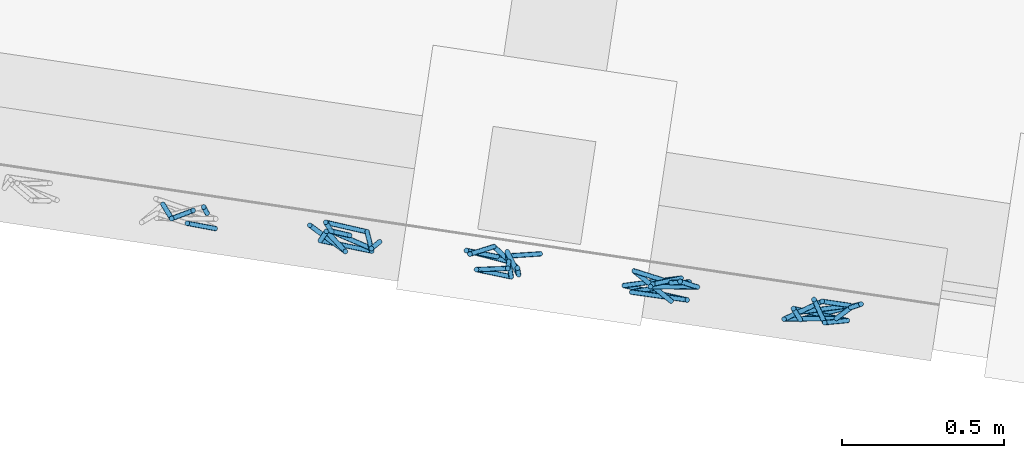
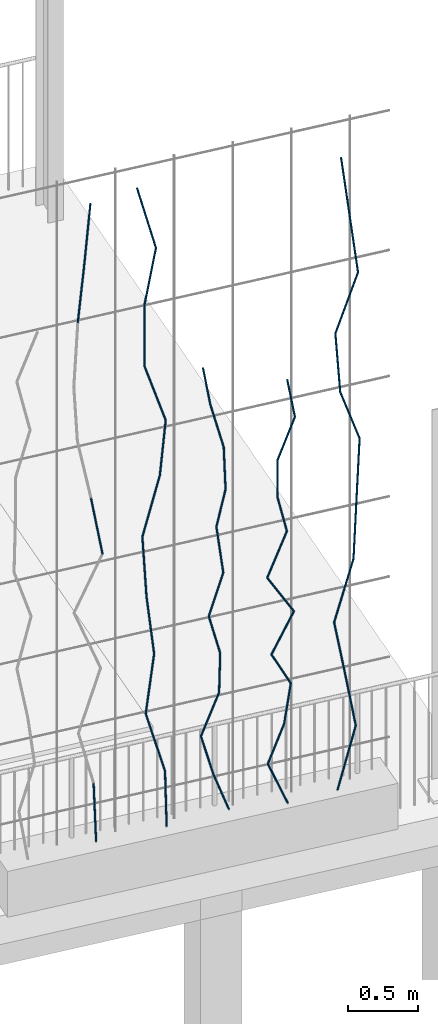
# One storey, part 127 of 143: 48 members, 1 element without a shape of its own.
"""IFC4 building model written with IfcOpenShell, lengths in metres."""

from ifc_helpers import new_model, si_unit, direction, frame, origin_with_axes, place, context, subcontext, project, spatial, circle, extrude, material, material_profile, profile_set, profile_usage, type_object, element, aggregate, save


model = new_model("IFC4")

# Units and contexts
model_context = context("Model", 3, precision=1e-05, world=origin_with_axes(), true_north=direction((0.0, 1.0)))
body_context = subcontext(model_context, "Body", "Model", "MODEL_VIEW")
ifc_project = project(units=[si_unit("VOLUMEUNIT", "CUBIC_METRE"), si_unit("LENGTHUNIT", "METRE"), si_unit("AREAUNIT", "SQUARE_METRE")], contexts=[model_context])

# Site, building, storey
site_placement = place(None, origin_with_axes())
site = spatial("IfcSite", under=ifc_project, at=site_placement, Name="Lares · Rua das Mercês · artigo 4771")
building_placement = place(site_placement, frame((15.0, 9.7, 15.8), z_axis=(0.0, 0.0, 1.0), x_axis=(0.989015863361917, -0.147809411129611, 0.0)))
building = spatial("IfcBuilding", under=site, at=building_placement, Name="Casa Sobreposta")
storey_placement = place(building_placement, origin_with_axes())
storey = spatial("IfcBuildingStorey", under=building, at=storey_placement, Name="00 · Habitação e estacionamento", Elevation=15.8)

# Assembly, members
assembly_placement = place(storey_placement, origin_with_axes())
assembly = element("IfcElementAssembly", 1, at=assembly_placement, inside=storey, Name="Fachada sul e pátio · estrutura e trepadeiras", ObjectType="LIVING_SHADE_TRELLIS", PredefinedType="USERDEFINED")
ifc_material = material(Name="Ramos de trepadeiras", Category="wood")
ifc_material_profile = material_profile(ifc_material, circle(Radius=0.0075))
ifc_profile_set = profile_set([ifc_material_profile], Name="D0.015")
ifc_profile_usage_1 = profile_usage(ifc_profile_set)
member_type = type_object("IfcMemberType", Name="D0.015 / vine_wood", PredefinedType="NOTDEFINED", material=ifc_profile_set)
member_1_placement = place(assembly_placement, frame((29.2283838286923, -1.66457891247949, 0.35), z_axis=(-0.0252439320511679, 0.0344689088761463, 0.999086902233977), x_axis=(0.999681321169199, 0.000870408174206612, 0.0252289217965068)))
member_1 = element("IfcMember", 2, at=member_1_placement, type_object=member_type, material=ifc_profile_usage_1, Name="Trepadeiras · ramo", context=body_context, shape_type="SweptSolid", body=[
    extrude(circle(Radius=0.0075), origin_with_axes(), (0.0, 0.0, 1.0), 0.508202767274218),
])
ifc_profile_usage_2 = profile_usage(ifc_profile_set)
member_2_placement = place(assembly_placement, frame((29.2600635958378, -1.70751102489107, 2.88869364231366), z_axis=(-0.169784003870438, 0.00616562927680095, 0.985462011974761), x_axis=(0.0362906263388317, 0.999341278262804, 0.0)))
member_2 = element("IfcMember", 3, at=member_2_placement, type_object=member_type, material=ifc_profile_usage_2, Name="Trepadeiras · ramo", context=body_context, shape_type="SweptSolid", body=[
    extrude(circle(Radius=0.0075), origin_with_axes(), (0.0, 0.0, 1.0), 0.515229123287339),
])
ifc_profile_usage_3 = profile_usage(ifc_profile_set)
member_3_placement = place(assembly_placement, frame((29.0901985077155, -1.6576110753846, 4.91964855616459), z_axis=(0.0644049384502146, -0.0771905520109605, 0.994933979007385), x_axis=(-0.767832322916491, -0.640650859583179, 0.0)))
member_3 = element("IfcMember", 4, at=member_3_placement, type_object=member_type, material=ifc_profile_usage_3, Name="Trepadeiras · ramo", context=body_context, shape_type="SweptSolid", body=[
    extrude(circle(Radius=0.0075), origin_with_axes(), (0.0, 0.0, 1.0), 0.510324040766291),
])
ifc_profile_usage_4 = profile_usage(ifc_profile_set)
member_4_placement = place(assembly_placement, frame((29.1230658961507, -1.69700326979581, 5.42738728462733), z_axis=(0.120473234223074, 0.0669973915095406, 0.990453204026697), x_axis=(0.486018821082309, -0.873948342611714, 0.0)))
member_4 = element("IfcMember", 5, at=member_4_placement, type_object=member_type, material=ifc_profile_usage_4, Name="Trepadeiras · ramo", context=body_context, shape_type="SweptSolid", body=[
    extrude(circle(Radius=0.0075), origin_with_axes(), (0.0, 0.0, 1.0), 0.512632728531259),
])
ifc_profile_usage_5 = profile_usage(ifc_profile_set)
member_5_placement = place(assembly_placement, frame((29.7668433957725, -1.67324367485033, 0.35), z_axis=(-0.0428066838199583, -0.0470108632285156, 0.997976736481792), x_axis=(-0.739395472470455, 0.673271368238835, 0.0)))
member_5 = element("IfcMember", 6, at=member_5_placement, type_object=member_type, material=ifc_profile_usage_5, Name="Trepadeiras · ramo", context=body_context, shape_type="SweptSolid", body=[
    extrude(circle(Radius=0.0075), origin_with_axes(), (0.0, 0.0, 1.0), 0.512141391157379),
])
ifc_profile_usage_6 = profile_usage(ifc_profile_set)
member_6_placement = place(assembly_placement, frame((29.7449203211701, -1.69731988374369, 0.861105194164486), z_axis=(-0.254221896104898, 0.0667168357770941, 0.96484200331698), x_axis=(0.253839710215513, 0.967246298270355, 0.0)))
member_6 = element("IfcMember", 7, at=member_6_placement, type_object=member_type, material=ifc_profile_usage_6, Name="Trepadeiras · ramo", context=body_context, shape_type="SweptSolid", body=[
    extrude(circle(Radius=0.0075), origin_with_axes(), (0.0, 0.0, 1.0), 0.529729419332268),
])
ifc_profile_usage_7 = profile_usage(ifc_profile_set)
member_7_placement = place(assembly_placement, frame((29.6102515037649, -1.66197801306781, 1.37221038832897), z_axis=(0.121962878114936, -0.00970701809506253, 0.992487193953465), x_axis=(-0.0793390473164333, -0.996847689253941, 0.0)))
member_7 = element("IfcMember", 8, at=member_7_placement, type_object=member_type, material=ifc_profile_usage_7, Name="Trepadeiras · ramo", context=body_context, shape_type="SweptSolid", body=[
    extrude(circle(Radius=0.0075), origin_with_axes(), (0.0, 0.0, 1.0), 0.514974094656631),
])
ifc_profile_usage_8 = profile_usage(ifc_profile_set)
member_8_placement = place(assembly_placement, frame((29.6730592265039, -1.66697687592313, 1.88331558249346), z_axis=(-0.11114571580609, 0.0078114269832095, 0.99377342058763), x_axis=(0.0701080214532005, 0.997539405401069, 9.67018947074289e-19)))
member_8 = element("IfcMember", 9, at=member_8_placement, type_object=member_type, material=ifc_profile_usage_8, Name="Trepadeiras · ramo", context=body_context, shape_type="SweptSolid", body=[
    extrude(circle(Radius=0.0075), origin_with_axes(), (0.0, 0.0, 1.0), 0.514307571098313),
])
ifc_profile_usage_9 = profile_usage(ifc_profile_set)
member_9_placement = place(assembly_placement, frame((29.6158961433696, -1.66295939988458, 2.39442077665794), z_axis=(-0.0428014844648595, 0.0480979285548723, 0.99792515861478), x_axis=(0.747040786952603, 0.664778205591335, 0.0)))
member_9 = element("IfcMember", 10, at=member_9_placement, type_object=member_type, material=ifc_profile_usage_9, Name="Trepadeiras · ramo", context=body_context, shape_type="SweptSolid", body=[
    extrude(circle(Radius=0.0075), origin_with_axes(), (0.0, 0.0, 1.0), 0.512167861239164),
])
ifc_profile_usage_10 = profile_usage(ifc_profile_set)
member_10_placement = place(assembly_placement, frame((29.5939745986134, -1.6383251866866, 2.90552597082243), z_axis=(0.247264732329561, -0.01922655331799, 0.968757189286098), x_axis=(-0.0775229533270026, -0.996990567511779, 0.0)))
member_10 = element("IfcMember", 11, at=member_10_placement, type_object=member_type, material=ifc_profile_usage_10, Name="Trepadeiras · ramo", context=body_context, shape_type="SweptSolid", body=[
    extrude(circle(Radius=0.0075), origin_with_axes(), (0.0, 0.0, 1.0), 0.52758854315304),
])
ifc_profile_usage_11 = profile_usage(ifc_profile_set)
member_11_placement = place(assembly_placement, frame((29.7244286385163, -1.64846889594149, 3.41663116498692), z_axis=(0.0440949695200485, -0.109390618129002, 0.993020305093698), x_axis=(-0.927483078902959, -0.373865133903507, 0.0)))
member_11 = element("IfcMember", 12, at=member_11_placement, type_object=member_type, material=ifc_profile_usage_11, Name="Trepadeiras · ramo", context=body_context, shape_type="SweptSolid", body=[
    extrude(circle(Radius=0.0075), origin_with_axes(), (0.0, 0.0, 1.0), 0.514697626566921),
])
ifc_profile_usage_12 = profile_usage(ifc_profile_set)
member_12_placement = place(assembly_placement, frame((29.7471242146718, -1.70477198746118, 3.9277363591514), z_axis=(-0.300432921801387, 0.0157623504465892, 0.953672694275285), x_axis=(0.0523933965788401, 0.998626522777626, 0.0)))
member_12 = element("IfcMember", 13, at=member_12_placement, type_object=member_type, material=ifc_profile_usage_12, Name="Trepadeiras · ramo", context=body_context, shape_type="SweptSolid", body=[
    extrude(circle(Radius=0.0075), origin_with_axes(), (0.0, 0.0, 1.0), 0.535933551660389),
])
ifc_profile_usage_13 = profile_usage(ifc_profile_set)
member_13_placement = place(assembly_placement, frame((29.5861121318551, -1.69632441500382, 4.43884155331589), z_axis=(0.0273818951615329, 0.0604129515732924, 0.997797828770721), x_axis=(0.910811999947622, -0.412821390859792, 0.0)))
member_13 = element("IfcMember", 14, at=member_13_placement, type_object=member_type, material=ifc_profile_usage_13, Name="Trepadeiras · ramo", context=body_context, shape_type="SweptSolid", body=[
    extrude(circle(Radius=0.0075), origin_with_axes(), (0.0, 0.0, 1.0), 0.51223321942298),
])
ifc_profile_usage_14 = profile_usage(ifc_profile_set)
member_14_placement = place(assembly_placement, frame((29.6001380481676, -1.66537889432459, 4.94994674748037), z_axis=(0.129038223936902, -0.101811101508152, 0.986399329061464), x_axis=(-0.619414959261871, -0.785063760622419, 0.0)))
member_14 = element("IfcMember", 15, at=member_14_placement, type_object=member_type, material=ifc_profile_usage_14, Name="Trepadeiras · ramo", context=body_context, shape_type="SweptSolid", body=[
    extrude(circle(Radius=0.0075), origin_with_axes(), (0.0, 0.0, 1.0), 0.518152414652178),
])
ifc_profile_usage_15 = profile_usage(ifc_profile_set)
member_15_placement = place(assembly_placement, frame((29.6669995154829, -1.71813256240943, 5.46105194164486), z_axis=(-0.227719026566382, 0.120705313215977, 0.966216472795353), x_axis=(0.468336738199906, 0.883550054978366, 0.0)))
member_15 = element("IfcMember", 16, at=member_15_placement, type_object=member_type, material=ifc_profile_usage_15, Name="Trepadeiras · ramo", context=body_context, shape_type="SweptSolid", body=[
    extrude(circle(Radius=0.0075), origin_with_axes(), (0.0, 0.0, 1.0), 0.528975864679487),
])
ifc_profile_usage_16 = profile_usage(ifc_profile_set)
member_16_placement = place(assembly_placement, frame((30.261618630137, -1.63679709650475, 0.35), z_axis=(-0.341987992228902, -0.073852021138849, 0.936797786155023), x_axis=(-0.211083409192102, 0.977468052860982, 0.0)))
member_16 = element("IfcMember", 17, at=member_16_placement, type_object=member_type, material=ifc_profile_usage_16, Name="Trepadeiras · ramo", context=body_context, shape_type="SweptSolid", body=[
    extrude(circle(Radius=0.0075), origin_with_axes(), (0.0, 0.0, 1.0), 0.381675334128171),
])
ifc_profile_usage_17 = profile_usage(ifc_profile_set)
member_17_placement = place(assembly_placement, frame((30.1310902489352, -1.66498459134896, 0.707552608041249), z_axis=(-0.258918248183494, 0.0129089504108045, 0.96581297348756), x_axis=(0.0497953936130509, 0.998759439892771, 0.0)))
member_17 = element("IfcMember", 18, at=member_17_placement, type_object=member_type, material=ifc_profile_usage_17, Name="Trepadeiras · ramo", context=body_context, shape_type="SweptSolid", body=[
    extrude(circle(Radius=0.0075), origin_with_axes(), (0.0, 0.0, 1.0), 0.370208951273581),
])
ifc_profile_usage_18 = profile_usage(ifc_profile_set)
member_18_placement = place(assembly_placement, frame((30.0352363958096, -1.66020558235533, 1.0651052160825), z_axis=(0.350865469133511, -0.0374713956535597, 0.935675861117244), x_axis=(-0.106193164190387, -0.994345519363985, 0.0)))
member_18 = element("IfcMember", 19, at=member_18_placement, type_object=member_type, material=ifc_profile_usage_18, Name="Trepadeiras · ramo", context=body_context, shape_type="SweptSolid", body=[
    extrude(circle(Radius=0.0075), origin_with_axes(), (0.0, 0.0, 1.0), 0.382132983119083),
])
ifc_profile_usage_19 = profile_usage(ifc_profile_set)
member_19_placement = place(assembly_placement, frame((30.1693136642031, -1.67452463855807, 1.42265782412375), z_axis=(0.000383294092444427, -0.0596842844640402, 0.998217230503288), x_axis=(-0.999979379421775, -0.00642189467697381, 0.0)))
member_19 = element("IfcMember", 20, at=member_19_placement, type_object=member_type, material=ifc_profile_usage_19, Name="Trepadeiras · ramo", context=body_context, shape_type="SweptSolid", body=[
    extrude(circle(Radius=0.0075), origin_with_axes(), (0.0, 0.0, 1.0), 0.358191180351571),
])
ifc_profile_usage_20 = profile_usage(ifc_profile_set)
member_20_placement = place(assembly_placement, frame((30.1694509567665, -1.69590302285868, 1.78021043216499), z_axis=(-0.256144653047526, -0.0477982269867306, 0.965455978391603), x_axis=(-0.183439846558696, 0.98303093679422, 0.0)))
member_20 = element("IfcMember", 21, at=member_20_placement, type_object=member_type, material=ifc_profile_usage_20, Name="Trepadeiras · ramo", context=body_context, shape_type="SweptSolid", body=[
    extrude(circle(Radius=0.0075), origin_with_axes(), (0.0, 0.0, 1.0), 0.370345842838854),
])
ifc_profile_usage_21 = profile_usage(ifc_profile_set)
member_21_placement = place(assembly_placement, frame((30.0745888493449, -1.71360489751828, 2.13776304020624), z_axis=(0.291697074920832, -0.0167889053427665, 0.956363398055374), x_axis=(-0.0574608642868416, -0.998347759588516, 0.0)))
member_21 = element("IfcMember", 22, at=member_21_placement, type_object=member_type, material=ifc_profile_usage_21, Name="Trepadeiras · ramo", context=body_context, shape_type="SweptSolid", body=[
    extrude(circle(Radius=0.0075), origin_with_axes(), (0.0, 0.0, 1.0), 0.373866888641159),
])
ifc_profile_usage_22 = profile_usage(ifc_profile_set)
member_22_placement = place(assembly_placement, frame((30.1836447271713, -1.71988171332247, 2.49531564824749), z_axis=(-0.064696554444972, 0.202860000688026, 0.977068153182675), x_axis=(0.95272176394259, 0.303844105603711, 7.96021462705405e-18)))
member_22 = element("IfcMember", 23, at=member_22_placement, type_object=member_type, material=ifc_profile_usage_22, Name="Trepadeiras · ramo", context=body_context, shape_type="SweptSolid", body=[
    extrude(circle(Radius=0.0075), origin_with_axes(), (0.0, 0.0, 1.0), 0.365944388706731),
])
ifc_profile_usage_23 = profile_usage(ifc_profile_set)
member_23_placement = place(assembly_placement, frame((30.1599693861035, -1.64564623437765, 2.85286825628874), z_axis=(0.123292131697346, -0.175486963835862, 0.976730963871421), x_axis=(-0.818242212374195, -0.574873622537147, 0.0)))
member_23 = element("IfcMember", 24, at=member_23_placement, type_object=member_type, material=ifc_profile_usage_23, Name="Trepadeiras · ramo", context=body_context, shape_type="SweptSolid", body=[
    extrude(circle(Radius=0.0075), origin_with_axes(), (0.0, 0.0, 1.0), 0.366070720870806),
])
ifc_profile_usage_24 = profile_usage(ifc_profile_set)
member_24_placement = place(assembly_placement, frame((30.2051030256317, -1.70988687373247, 3.21042086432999), z_axis=(-0.0181704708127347, 0.055018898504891, 0.998319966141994), x_axis=(0.949555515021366, 0.313598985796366, 0.0)))
member_24 = element("IfcMember", 25, at=member_24_placement, type_object=member_type, material=ifc_profile_usage_24, Name="Trepadeiras · ramo", context=body_context, shape_type="SweptSolid", body=[
    extrude(circle(Radius=0.0075), origin_with_axes(), (0.0, 0.0, 1.0), 0.358154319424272),
])
ifc_profile_usage_25 = profile_usage(ifc_profile_set)
member_25_placement = place(assembly_placement, frame((30.1985951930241, -1.69018161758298, 3.56797347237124), z_axis=(-0.219940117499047, 0.14657027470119, 0.964439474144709), x_axis=(0.554552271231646, 0.83214889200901, 0.0)))
member_25 = element("IfcMember", 26, at=member_25_placement, type_object=member_type, material=ifc_profile_usage_25, Name="Trepadeiras · ramo", context=body_context, shape_type="SweptSolid", body=[
    extrude(circle(Radius=0.0075), origin_with_axes(), (0.0, 0.0, 1.0), 0.370736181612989),
])
ifc_profile_usage_26 = profile_usage(ifc_profile_set)
member_26_placement = place(assembly_placement, frame((30.117055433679, -1.63584271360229, 3.92552608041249), z_axis=(-0.189986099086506, -0.0918125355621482, 0.977484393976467), x_axis=(-0.435114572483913, 0.90037509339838, 0.0)))
member_26 = element("IfcMember", 27, at=member_26_placement, type_object=member_type, material=ifc_profile_usage_26, Name="Trepadeiras · ramo", context=body_context, shape_type="SweptSolid", body=[
    extrude(circle(Radius=0.0075), origin_with_axes(), (0.0, 0.0, 1.0), 0.365788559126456),
])
ifc_profile_usage_27 = profile_usage(ifc_profile_set)
member_27_placement = place(assembly_placement, frame((30.6816189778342, -1.72103625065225, 0.35), z_axis=(-0.348194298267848, 0.206069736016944, 0.914492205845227), x_axis=(0.509312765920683, 0.860581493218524, 0.0)))
member_27 = element("IfcMember", 28, at=member_27_placement, type_object=member_type, material=ifc_profile_usage_27, Name="Trepadeiras · ramo", context=body_context, shape_type="SweptSolid", body=[
    extrude(circle(Radius=0.0075), origin_with_axes(), (0.0, 0.0, 1.0), 0.363374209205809),
])
ifc_profile_usage_28 = profile_usage(ifc_profile_set)
member_28_placement = place(assembly_placement, frame((30.5550941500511, -1.64615582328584, 0.682302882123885), z_axis=(0.33475661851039, -0.0529891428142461, 0.940813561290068), x_axis=(-0.156344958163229, -0.987702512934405, 0.0)))
member_28 = element("IfcMember", 29, at=member_28_placement, type_object=member_type, material=ifc_profile_usage_28, Name="Trepadeiras · ramo", context=body_context, shape_type="SweptSolid", body=[
    extrude(circle(Radius=0.0075), origin_with_axes(), (0.0, 0.0, 1.0), 0.353208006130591),
])
ifc_profile_usage_29 = profile_usage(ifc_profile_set)
member_29_placement = place(assembly_placement, frame((30.6733328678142, -1.66487201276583, 1.01460576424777), z_axis=(0.163555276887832, 0.0298620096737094, 0.986082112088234), x_axis=(0.179611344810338, -0.983737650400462, 0.0)))
member_29 = element("IfcMember", 30, at=member_29_placement, type_object=member_type, material=ifc_profile_usage_29, Name="Trepadeiras · ramo", context=body_context, shape_type="SweptSolid", body=[
    extrude(circle(Radius=0.0075), origin_with_axes(), (0.0, 0.0, 1.0), 0.336993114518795),
])
ifc_profile_usage_30 = profile_usage(ifc_profile_set)
member_30_placement = place(assembly_placement, frame((30.7284498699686, -1.6548087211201, 1.34690864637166), z_axis=(-0.452950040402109, -0.150341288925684, 0.87876831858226), x_axis=(-0.315016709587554, 0.949086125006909, 0.0)))
member_30 = element("IfcMember", 31, at=member_30_placement, type_object=member_type, material=ifc_profile_usage_30, Name="Trepadeiras · ramo", context=body_context, shape_type="SweptSolid", body=[
    extrude(circle(Radius=0.0075), origin_with_axes(), (0.0, 0.0, 1.0), 0.378146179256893),
])
ifc_profile_usage_31 = profile_usage(ifc_profile_set)
member_31_placement = place(assembly_placement, frame((30.5571685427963, -1.7116597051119, 1.67921152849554), z_axis=(0.462645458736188, 0.00382392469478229, 0.886535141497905), x_axis=(0.00826506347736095, -0.999965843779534, 0.0)))
member_31 = element("IfcMember", 32, at=member_31_placement, type_object=member_type, material=ifc_profile_usage_31, Name="Trepadeiras · ramo", context=body_context, shape_type="SweptSolid", body=[
    extrude(circle(Radius=0.0075), origin_with_axes(), (0.0, 0.0, 1.0), 0.37483328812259),
])
ifc_profile_usage_32 = profile_usage(ifc_profile_set)
member_32_placement = place(assembly_placement, frame((30.7305834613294, -1.71022637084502, 2.01151441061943), z_axis=(-0.514458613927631, 0.0391758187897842, 0.856619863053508), x_axis=(0.0759297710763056, 0.997113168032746, 0.0)))
member_32 = element("IfcMember", 33, at=member_32_placement, type_object=member_type, material=ifc_profile_usage_32, Name="Trepadeiras · ramo", context=body_context, shape_type="SweptSolid", body=[
    extrude(circle(Radius=0.0075), origin_with_axes(), (0.0, 0.0, 1.0), 0.387923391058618),
])
ifc_profile_usage_33 = profile_usage(ifc_profile_set)
member_33_placement = place(assembly_placement, frame((30.5310129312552, -1.69502915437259, 2.34381729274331), z_axis=(0.452918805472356, 0.129015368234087, 0.882167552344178), x_axis=(0.273955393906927, -0.961742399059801, 0.0)))
member_33 = element("IfcMember", 34, at=member_33_placement, type_object=member_type, material=ifc_profile_usage_33, Name="Trepadeiras · ramo", context=body_context, shape_type="SweptSolid", body=[
    extrude(circle(Radius=0.0075), origin_with_axes(), (0.0, 0.0, 1.0), 0.376689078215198),
])
ifc_profile_usage_34 = profile_usage(ifc_profile_set)
member_34_placement = place(assembly_placement, frame((30.7016224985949, -1.6464304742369, 2.6761201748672), z_axis=(-0.242328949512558, -0.0911697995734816, 0.96590100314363), x_axis=(-0.352127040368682, 0.935952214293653, 0.0)))
member_34 = element("IfcMember", 35, at=member_34_placement, type_object=member_type, material=ifc_profile_usage_34, Name="Trepadeiras · ramo", context=body_context, shape_type="SweptSolid", body=[
    extrude(circle(Radius=0.0075), origin_with_axes(), (0.0, 0.0, 1.0), 0.344034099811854),
])
ifc_profile_usage_35 = profile_usage(ifc_profile_set)
member_35_placement = place(assembly_placement, frame((30.618253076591, -1.67779599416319, 3.00842305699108), z_axis=(-0.018591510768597, -0.0255179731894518, 0.999501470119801), x_axis=(0.999827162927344, -0.000474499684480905, 0.0185854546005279)))
member_35 = element("IfcMember", 36, at=member_35_placement, type_object=member_type, material=ifc_profile_usage_35, Name="Trepadeiras · ramo", context=body_context, shape_type="SweptSolid", body=[
    extrude(circle(Radius=0.0075), origin_with_axes(), (0.0, 0.0, 1.0), 0.332468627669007),
])
ifc_profile_usage_36 = profile_usage(ifc_profile_set)
member_36_placement = place(assembly_placement, frame((30.6120719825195, -1.68627991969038, 3.34072593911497), z_axis=(0.395625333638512, 0.0554248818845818, 0.916738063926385), x_axis=(0.138739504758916, -0.990328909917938, 0.0)))
member_36 = element("IfcMember", 37, at=member_36_placement, type_object=member_type, material=ifc_profile_usage_36, Name="Trepadeiras · ramo", context=body_context, shape_type="SweptSolid", body=[
    extrude(circle(Radius=0.0075), origin_with_axes(), (0.0, 0.0, 1.0), 0.362484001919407),
])
ifc_profile_usage_37 = profile_usage(ifc_profile_set)
member_37_placement = place(assembly_placement, frame((30.7554798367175, -1.66618928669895, 3.67302882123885), z_axis=(-0.164939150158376, 0.0266499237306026, 0.985943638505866), x_axis=(0.159505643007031, 0.987197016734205, 0.0)))
member_37 = element("IfcMember", 38, at=member_37_placement, type_object=member_type, material=ifc_profile_usage_37, Name="Trepadeiras · ramo", context=body_context, shape_type="SweptSolid", body=[
    extrude(circle(Radius=0.0075), origin_with_axes(), (0.0, 0.0, 1.0), 0.337040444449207),
])
ifc_profile_usage_38 = profile_usage(ifc_profile_set)
member_38_placement = place(assembly_placement, frame((31.0679707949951, -1.69918109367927, 0.35), z_axis=(0.30526701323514, 0.0879293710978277, 0.948198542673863), x_axis=(0.276787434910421, -0.960931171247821, 0.0)))
member_38 = element("IfcMember", 39, at=member_38_placement, type_object=member_type, material=ifc_profile_usage_38, Name="Trepadeiras · ramo", context=body_context, shape_type="SweptSolid", body=[
    extrude(circle(Radius=0.0075), origin_with_axes(), (0.0, 0.0, 1.0), 0.525688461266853),
])
ifc_profile_usage_39 = profile_usage(ifc_profile_set)
member_39_placement = place(assembly_placement, frame((31.2284461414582, -1.65295763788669, 0.848457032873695), z_axis=(-0.171477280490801, -0.000359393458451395, 0.985188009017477), x_axis=(-0.00209586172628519, 0.9999978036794, 0.0)))
member_39 = element("IfcMember", 40, at=member_39_placement, type_object=member_type, material=ifc_profile_usage_39, Name="Trepadeiras · ramo", context=body_context, shape_type="SweptSolid", body=[
    extrude(circle(Radius=0.0075), origin_with_axes(), (0.0, 0.0, 1.0), 0.505951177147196),
])
ifc_profile_usage_40 = profile_usage(ifc_profile_set)
member_40_placement = place(assembly_placement, frame((31.1416870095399, -1.65313947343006, 1.34691406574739), z_axis=(-0.209536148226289, -0.138759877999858, 0.967905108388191), x_axis=(-0.552133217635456, 0.833755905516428, 1.33620471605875e-17)))
member_40 = element("IfcMember", 41, at=member_40_placement, type_object=member_type, material=ifc_profile_usage_40, Name="Trepadeiras · ramo", context=body_context, shape_type="SweptSolid", body=[
    extrude(circle(Radius=0.0075), origin_with_axes(), (0.0, 0.0, 1.0), 0.514985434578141),
])
ifc_profile_usage_41 = profile_usage(ifc_profile_set)
member_41_placement = place(assembly_placement, frame((31.0337789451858, -1.72459878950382, 1.84537109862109), z_axis=(0.303896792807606, 0.0499440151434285, 0.951394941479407), x_axis=(0.162169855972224, -0.986762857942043, 0.0)))
member_41 = element("IfcMember", 42, at=member_41_placement, type_object=member_type, material=ifc_profile_usage_41, Name="Trepadeiras · ramo", context=body_context, shape_type="SweptSolid", body=[
    extrude(circle(Radius=0.0075), origin_with_axes(), (0.0, 0.0, 1.0), 0.523922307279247),
])
ifc_profile_usage_42 = profile_usage(ifc_profile_set)
member_42_placement = place(assembly_placement, frame((31.1929972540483, -1.69843200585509, 2.34382813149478), z_axis=(0.0784318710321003, 0.0796506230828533, 0.993732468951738), x_axis=(0.71253711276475, -0.701634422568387, 0.0)))
member_42 = element("IfcMember", 43, at=member_42_placement, type_object=member_type, material=ifc_profile_usage_42, Name="Trepadeiras · ramo", context=body_context, shape_type="SweptSolid", body=[
    extrude(circle(Radius=0.0075), origin_with_axes(), (0.0, 0.0, 1.0), 0.501600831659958),
])
ifc_profile_usage_43 = profile_usage(ifc_profile_set)
member_43_placement = place(assembly_placement, frame((31.2323387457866, -1.6584791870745, 2.84228516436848), z_axis=(0.0579605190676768, 0.0295137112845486, 0.997882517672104), x_axis=(0.453762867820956, -0.891122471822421, 0.0)))
member_43 = element("IfcMember", 44, at=member_43_placement, type_object=member_type, material=ifc_profile_usage_43, Name="Trepadeiras · ramo", context=body_context, shape_type="SweptSolid", body=[
    extrude(circle(Radius=0.0075), origin_with_axes(), (0.0, 0.0, 1.0), 0.499514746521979),
])
ifc_profile_usage_44 = profile_usage(ifc_profile_set)
member_44_placement = place(assembly_placement, frame((31.261290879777, -1.64373665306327, 3.34074219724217), z_axis=(-0.333224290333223, -0.139669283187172, 0.932445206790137), x_axis=(-0.386562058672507, 0.922263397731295, 0.0)))
member_44 = element("IfcMember", 45, at=member_44_placement, type_object=member_type, material=ifc_profile_usage_44, Name="Trepadeiras · ramo", context=body_context, shape_type="SweptSolid", body=[
    extrude(circle(Radius=0.0075), origin_with_axes(), (0.0, 0.0, 1.0), 0.534569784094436),
])
ifc_profile_usage_45 = profile_usage(ifc_profile_set)
member_45_placement = place(assembly_placement, frame((31.0831592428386, -1.71839963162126, 3.83919923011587), z_axis=(-0.0511214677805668, 0.0604637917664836, 0.99686043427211), x_axis=(0.763636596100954, 0.645646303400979, 0.0)))
member_45 = element("IfcMember", 46, at=member_45_placement, type_object=member_type, material=ifc_profile_usage_45, Name="Trepadeiras · ramo", context=body_context, shape_type="SweptSolid", body=[
    extrude(circle(Radius=0.0075), origin_with_axes(), (0.0, 0.0, 1.0), 0.500026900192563),
])
ifc_profile_usage_46 = profile_usage(ifc_profile_set)
member_46_placement = place(assembly_placement, frame((31.0575971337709, -1.68816610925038, 4.33765626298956), z_axis=(0.321908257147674, -0.0224785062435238, 0.946503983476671), x_axis=(-0.0696592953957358, -0.997570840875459, 0.0)))
member_46 = element("IfcMember", 47, at=member_46_placement, type_object=member_type, material=ifc_profile_usage_46, Name="Trepadeiras · ramo", context=body_context, shape_type="SweptSolid", body=[
    extrude(circle(Radius=0.0075), origin_with_axes(), (0.0, 0.0, 1.0), 0.526629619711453),
])
ifc_profile_usage_47 = profile_usage(ifc_profile_set)
member_47_placement = place(assembly_placement, frame((31.2271235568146, -1.70000395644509, 4.83611329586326), z_axis=(-0.135139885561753, -0.033668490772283, 0.990254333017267), x_axis=(-0.241748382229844, 0.970338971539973, 0.0)))
member_47 = element("IfcMember", 48, at=member_47_placement, type_object=member_type, material=ifc_profile_usage_47, Name="Trepadeiras · ramo", context=body_context, shape_type="SweptSolid", body=[
    extrude(circle(Radius=0.0075), origin_with_axes(), (0.0, 0.0, 1.0), 0.503362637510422),
])
ifc_profile_usage_48 = profile_usage(ifc_profile_set)
member_48_placement = place(assembly_placement, frame((31.1590991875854, -1.71695141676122, 5.33457032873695), z_axis=(-0.0851428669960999, 0.130646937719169, 0.987766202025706), x_axis=(0.837791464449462, 0.545990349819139, 0.0)))
member_48 = element("IfcMember", 49, at=member_48_placement, type_object=member_type, material=ifc_profile_usage_48, Name="Trepadeiras · ramo", context=body_context, shape_type="SweptSolid", body=[
    extrude(circle(Radius=0.0075), origin_with_axes(), (0.0, 0.0, 1.0), 0.504630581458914),
])
aggregate(assembly, [member_1, member_2, member_3, member_4, member_5, member_6, member_7, member_8, member_9, member_10, member_11, member_12, member_13, member_14, member_15, member_16, member_17, member_18, member_19, member_20, member_21, member_22, member_23, member_24, member_25, member_26, member_27, member_28, member_29, member_30, member_31, member_32, member_33, member_34, member_35, member_36, member_37, member_38, member_39, member_40, member_41, member_42, member_43, member_44, member_45, member_46, member_47, member_48])

save(model, "model.ifc")
